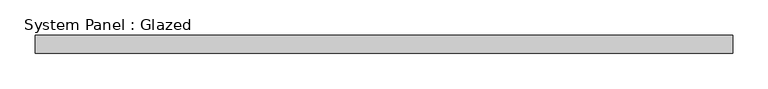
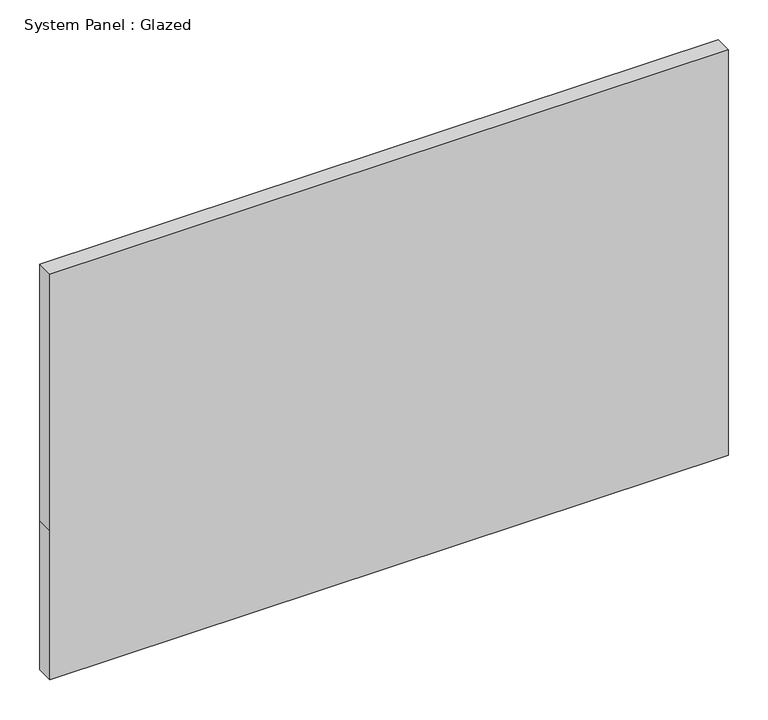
"""IFC4 building model written with IfcOpenShell, lengths in millimetres: plate geometry, System Panel : Glazed."""

from ifc_helpers import new_model, si_unit, frame, origin, place, context, project, spatial, polyline, outline, extrude, source, transform, mapped, element, save


def system_panel_glazed_2848853c(model_context):
    return source(origin(), model_context, "Body", "SweptSolid", [
        extrude(outline(polyline([(0.0, -492.5785713), (0.0, 492.5785713), (228.6, 492.5785713), (622.3, 492.5785713), (622.3, -492.5785713), (228.6, -492.5785713), (0.0, -492.5785713)])), frame((0.0, 19.05, 0.0), z_axis=(0.0, 1.0, 0.0), x_axis=(0.0, 0.0, 1.0)), (0.0, 0.0, 1.0), 25.4),
    ])


if __name__ == "__main__":
    model = new_model("IFC4")
    model_context = context("Model", 3, world=origin())
    ifc_project = project(units=[si_unit("LENGTHUNIT", "METRE", prefix="MILLI")], contexts=[model_context])
    site = spatial("IfcSite", under=ifc_project)
    building = spatial("IfcBuilding", under=site)
    placement = place(None, origin())
    system_panel_glazed_shape = system_panel_glazed_2848853c(model_context)
    element("IfcPlate", 1, ObjectType="System Panel : Glazed", at=placement, inside=building, context=model_context, shape_type="MappedRepresentation", body=[
        mapped(system_panel_glazed_shape, transform((0.0, 0.0, 0.0), x_axis=(1.0, 0.0, 0.0), y_axis=(0.0, 1.0, 0.0), z_axis=(0.0, 0.0, 1.0))),
    ])
    save(model, "model.ifc")
